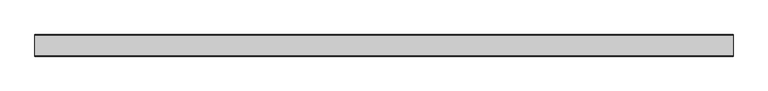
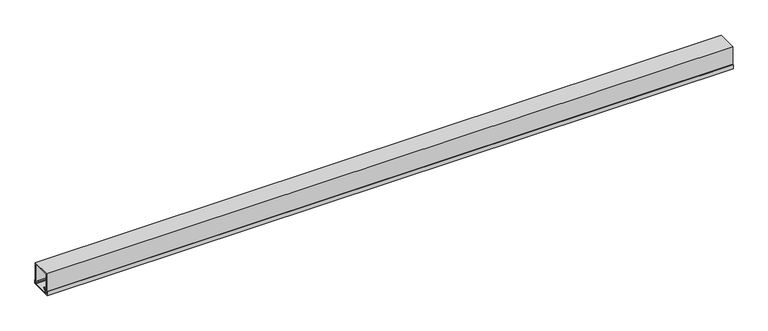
"""IFC4 building model written with IfcOpenShell, lengths in millimetres: light fixture geometry, 20207_レースウェイ : 45型×w40."""

from ifc_helpers import new_model, si_unit, frame, origin, place, context, project, spatial, polyline, outline, extrude, source, transform, mapped, element, save


def light_fixture_1c96664e(model_context):
    return source(origin(), model_context, "Body", "SweptSolid", [
        extrude(outline(polyline([(-21.7, 8.2), (-20.5, 8.2), (-20.5, 1.2), (20.5, 1.2), (20.5, 8.2), (21.7, 8.2), (21.7, 0.0), (-21.7, 0.0), (-21.7, 8.2)])), frame((-700.0, 0.0, 0.0), z_axis=(1.0, 0.0, 0.0), x_axis=(0.0, 1.0, 0.0)), (0.0, 0.0, 1.0), 1400.0),
        extrude(outline(polyline([(-20.0, 46.2), (20.0, 46.2), (20.0, 1.2), (18.4, 1.2), (10.0, 11.2), (11.2251278, 12.2291073), (18.4, 3.6875928), (18.4, 44.6), (-18.4, 44.6), (-18.4, 3.6875928), (-11.2251278, 12.2291073), (-10.0, 11.2), (-18.4, 1.2), (-20.0, 1.2), (-20.0, 46.2)])), frame((-700.0, 0.0, 0.0), z_axis=(1.0, 0.0, 0.0), x_axis=(0.0, 1.0, 0.0)), (0.0, 0.0, 1.0), 1400.0),
    ])


if __name__ == "__main__":
    model = new_model("IFC4")
    model_context = context("Model", 3, world=origin())
    ifc_project = project(units=[si_unit("LENGTHUNIT", "METRE", prefix="MILLI")], contexts=[model_context])
    site = spatial("IfcSite", under=ifc_project)
    building = spatial("IfcBuilding", under=site)
    placement = place(None, origin())
    light_fixture_shape = light_fixture_1c96664e(model_context)
    element("IfcLightFixture", 1, ObjectType="20207_レースウェイ : 45型×w40", at=placement, inside=building, context=model_context, shape_type="MappedRepresentation", body=[
        mapped(light_fixture_shape, transform((0.0, 0.0, 0.0), x_axis=(1.0, 0.0, 0.0), y_axis=(0.0, 1.0, 0.0), z_axis=(0.0, 0.0, 1.0))),
    ])
    save(model, "model.ifc")
